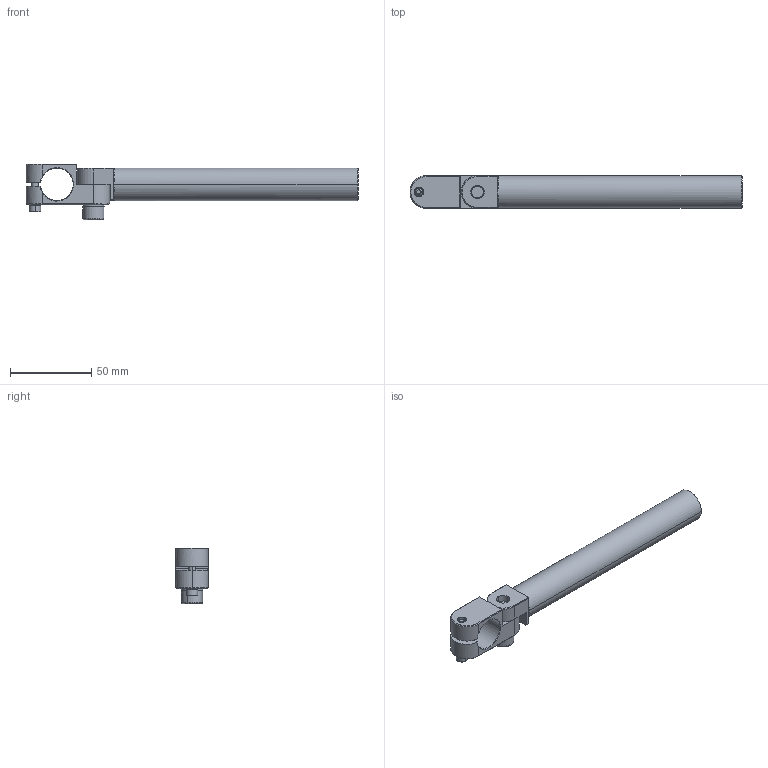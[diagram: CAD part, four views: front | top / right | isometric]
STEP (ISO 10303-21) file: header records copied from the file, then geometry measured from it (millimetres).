
FILE_DESCRIPTION (( 'STEP AP214' ), '1' );
FILE_NAME ('SEA-2020L150.STEP', '2019-11-11T02:59:42', ( '微软用户' ), ( '微软中国' ), 'SwSTEP 2.0', 'SolidWorks 2016', '' );
FILE_SCHEMA (( 'AUTOMOTIVE_DESIGN' ));
Length unit declared in the file: millimetre
Products named in the file (1): SEA-2020L150
Bounding box: 204.3 x 20 x 34.4 mm (x, y, z)
Volume: 39255 mm3; surface area: 26206.8 mm2
Topology: 6 solids, 6 shells, 563 faces, 1605 edges, 1040 vertices
Faces by surface type: plane 485, cylinder 35, cone 25, bspline 18
Entity records: 26895 total; most frequent: CARTESIAN_POINT 5661, ORIENTED_EDGE 3180, DIRECTION 3179, EDGE_CURVE 1590, AXIS2_PLACEMENT_3D 1075, VERTEX_POINT 1040, LINE 1029, VECTOR 1029
